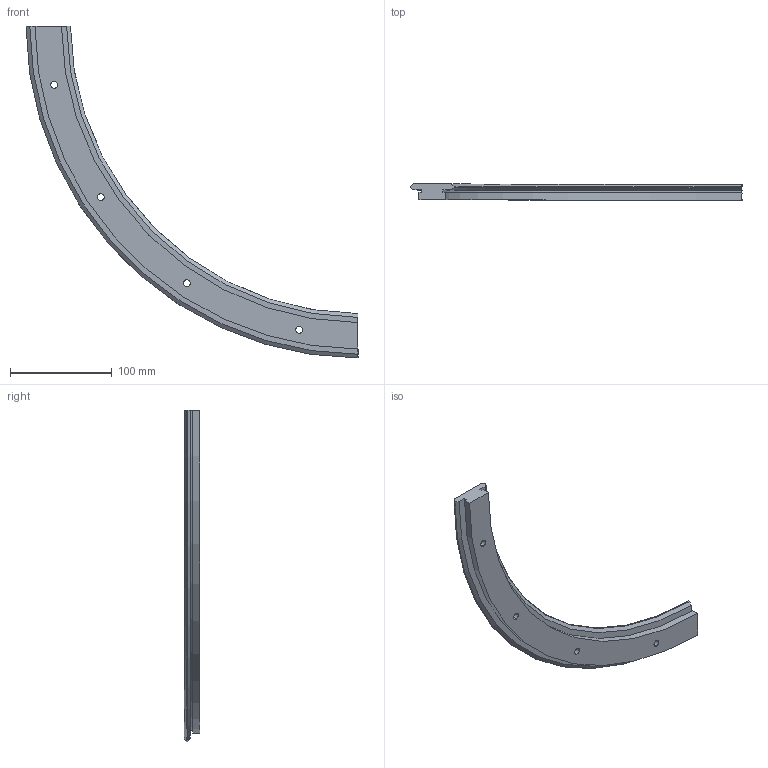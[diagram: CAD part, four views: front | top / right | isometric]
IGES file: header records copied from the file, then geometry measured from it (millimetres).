
Start section: 3D InterOp IGES (v. 2020 1.0.1), Spatial Corp. Copyright (c) 1999-2017.
Global section: file name: r44_612_r90.igs; native system: Spatial Corp.; preprocessor: 3D InterOp ACIS/IGES; author: TraceParts; organization: TraceParts S.A.; date: 20220624.071002; units: millimetre
Bounding box: 325.8 x 15.5 x 325.8 mm (x, y, z)
Surface area: 60146.6 mm2 (no closed solid volume)
Topology: 0 solids, 0 shells, 40 faces, 204 edges, 204 vertices
Faces by surface type: revolution 28, extrusion 12
